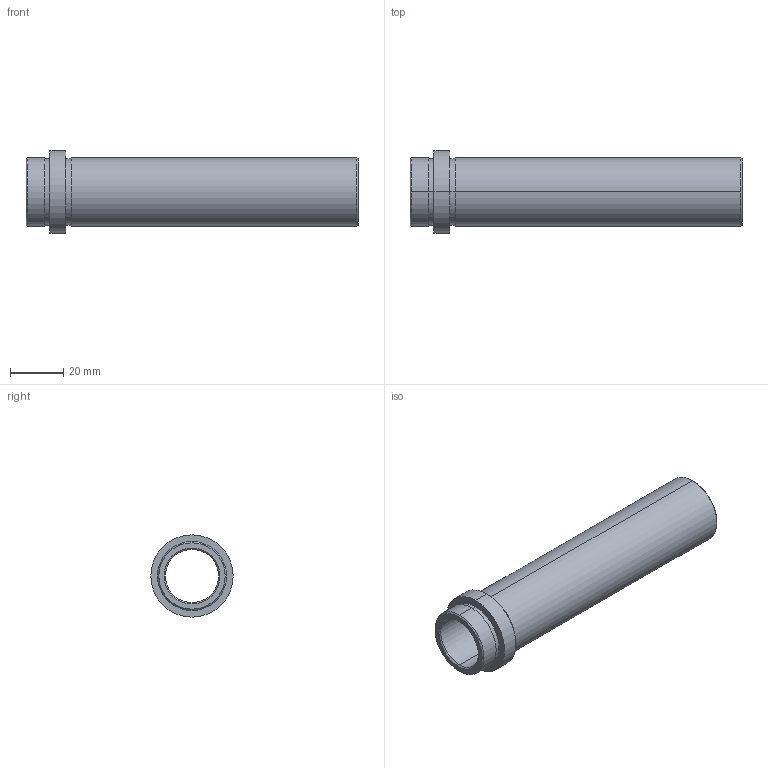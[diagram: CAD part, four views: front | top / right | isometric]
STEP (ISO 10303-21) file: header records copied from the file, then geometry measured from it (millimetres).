
FILE_DESCRIPTION( ( 'STEP AP203' ), '1' );
FILE_NAME( 'D:/Delta 3 D/D21/D21 - 20x116.step', '2002-12-31T22:38:03', ( ' ' ), ( ' ' ), 'XStep 1.0', ' ', ' ' );
FILE_SCHEMA( ( 'CONFIG_CONTROL_DESIGN' ) );
Length unit declared in the file: metre
Products named in the file (1): 1
Bounding box: 125 x 31 x 31 mm (x, y, z)
Volume: 28242.9 mm3; surface area: 19102.6 mm2
Topology: 1 solids, 1 shells, 26 faces, 52 edges, 32 vertices
Faces by surface type: revolution 20, bspline 6
Entity records: 773 total; most frequent: CARTESIAN_POINT 169, DIRECTION 106, ORIENTED_EDGE 104, EDGE_CURVE 52, AXIS2_PLACEMENT_3D 33, EDGE_LOOP 32, VERTEX_POINT 32, CIRCLE 32
